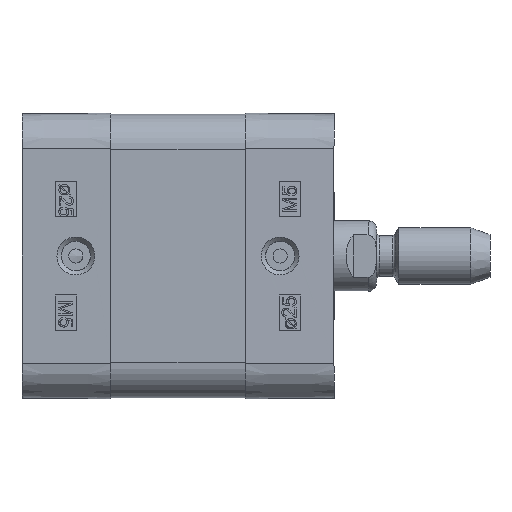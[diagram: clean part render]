
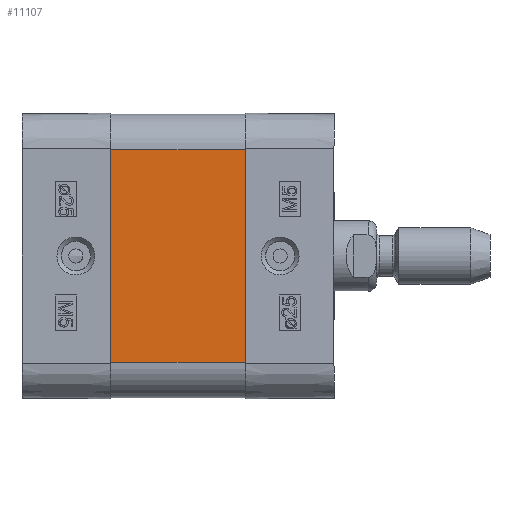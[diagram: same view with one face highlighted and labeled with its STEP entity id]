
A CAD part, left-side view. The second image highlights one B-rep face of the part: STEP entity #11107.
In plain terms, the highlighted planar face has unit normal (-1, 0, 0).
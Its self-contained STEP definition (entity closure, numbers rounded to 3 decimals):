
#8889=CARTESIAN_POINT('',(-20.,-19.0,15.0));
#8890=VERTEX_POINT('',#8889);
#8898=CARTESIAN_POINT('',(-20.,-19.0,-15.));
#8899=VERTEX_POINT('',#8898);
#8900=CARTESIAN_POINT('',(-20.,-19.0,-15.));
#8901=DIRECTION('',(0.0,0.0,1.0));
#8902=VECTOR('',#8901,30.);
#8903=LINE('',#8900,#8902);
#8904=EDGE_CURVE('',#8899,#8890,#8903,.T.);
#10035=CARTESIAN_POINT('',(-20.,0.0,15.0));
#10036=VERTEX_POINT('',#10035);
#10044=CARTESIAN_POINT('',(-20.,0.0,15.0));
#10045=DIRECTION('',(0.0,-1.0,0.0));
#10046=VECTOR('',#10045,19.0);
#10047=LINE('',#10044,#10046);
#10048=EDGE_CURVE('',#10036,#8890,#10047,.T.);
#11072=CARTESIAN_POINT('',(-20.,0.0,-15.));
#11073=VERTEX_POINT('',#11072);
#11074=CARTESIAN_POINT('',(-20.,0.0,-15.));
#11075=DIRECTION('',(0.0,-1.0,0.0));
#11076=VECTOR('',#11075,19.0);
#11077=LINE('',#11074,#11076);
#11078=EDGE_CURVE('',#11073,#8899,#11077,.T.);
#11091=CARTESIAN_POINT('',(-20.,0.0,-15.));
#11092=DIRECTION('',(-1.0,0.0,0.0));
#11093=DIRECTION('',(0.0,0.0,1.0));
#11094=AXIS2_PLACEMENT_3D('',#11091,#11092,#11093);
#11095=PLANE('',#11094);
#11096=ORIENTED_EDGE('',*,*,#8904,.T.);
#11097=ORIENTED_EDGE('',*,*,#10048,.F.);
#11098=CARTESIAN_POINT('',(-20.,0.0,-15.));
#11099=DIRECTION('',(0.0,0.0,1.0));
#11100=VECTOR('',#11099,30.);
#11101=LINE('',#11098,#11100);
#11102=EDGE_CURVE('',#11073,#10036,#11101,.T.);
#11103=ORIENTED_EDGE('',*,*,#11102,.F.);
#11104=ORIENTED_EDGE('',*,*,#11078,.T.);
#11105=EDGE_LOOP('',(#11096,#11097,#11103,#11104));
#11106=FACE_OUTER_BOUND('',#11105,.T.);
#11107=ADVANCED_FACE('',(#11106),#11095,.T.);
